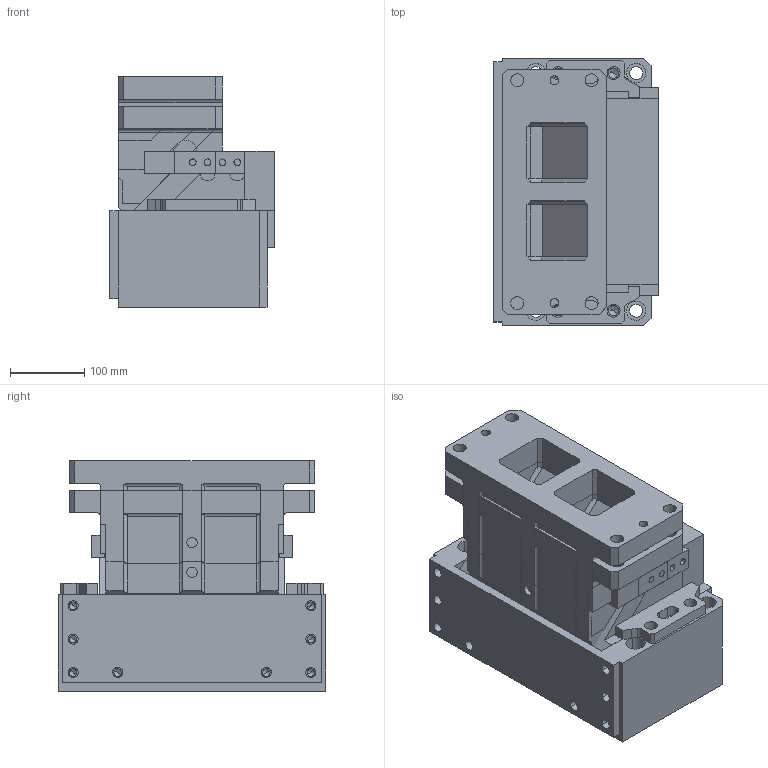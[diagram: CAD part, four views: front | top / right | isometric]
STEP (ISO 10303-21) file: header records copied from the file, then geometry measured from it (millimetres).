
FILE_DESCRIPTION(('CATIA V5 STEP','CAx-IF Rec.Pracs.--- Model Styling and Organization---1.4--- 2014-01-23','CAx-IF Rec.Pracs.---3D Tessellated Data Validation Properties---0.5---2014-09-14'),'2;1');
FILE_NAME('H:\_COMPRESS_2\2016.11.00.250.040.1.2__CM.stp','2020-11-18T14:03:48+00:00',('${USER}'),('AUDI AG, ${GROUP}'),'CATIA Version 5-6 Release 2018 SP3 HF27','CATIA V5 STEP AP242','none');
FILE_SCHEMA(('AP242_MANAGED_MODEL_BASED_3D_ENGINEERING_MIM_LF {1 0 10303 442 1 1 4}'));
Length unit declared in the file: millimetre
Products named in the file (1): 2016.11.00.250.040.1.2__CM
Bounding box: 222 x 360 x 310 mm (x, y, z)
Volume: 21471138.9 mm3; surface area: 1447504.6 mm2
Topology: 5 solids, 5 shells, 685 faces, 1723 edges, 1086 vertices
Faces by surface type: plane 408, cylinder 231, cone 40, sphere 4, bspline 2
Entity records: 19236 total; most frequent: CARTESIAN_POINT 3847, ORIENTED_EDGE 3376, DIRECTION 2608, EDGE_CURVE 1688, VECTOR 1162, LINE 1162, VERTEX_POINT 1082, AXIS2_PLACEMENT_3D 941
